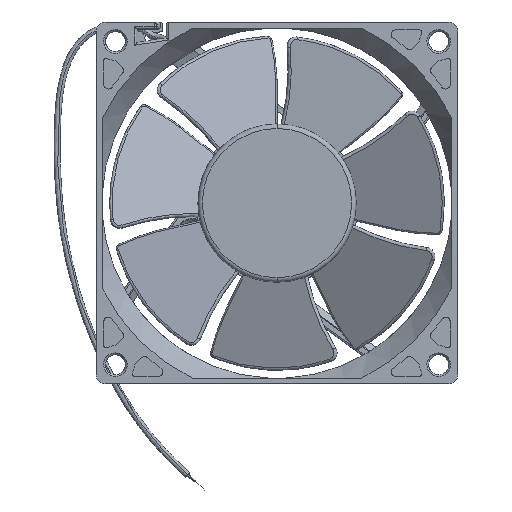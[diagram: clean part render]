
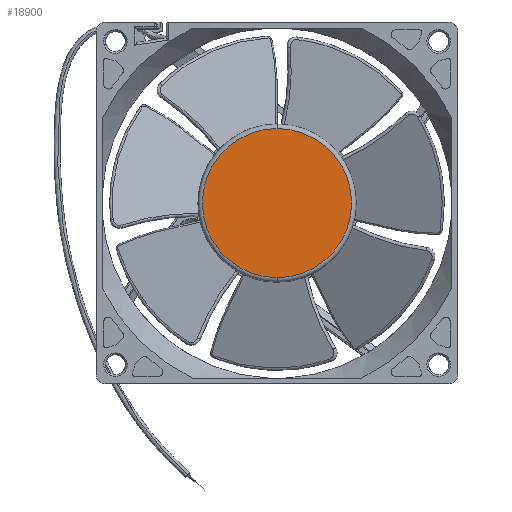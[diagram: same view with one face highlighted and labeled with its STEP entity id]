
A CAD part, front view. The second image highlights one B-rep face of the part: STEP entity #18900.
In plain terms, the highlighted planar face has unit normal (0, 1, 0).
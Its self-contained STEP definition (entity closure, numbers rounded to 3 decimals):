
#1941 = FACE_OUTER_BOUND ( 'NONE', #17195, .T. ) ;
#5399 = CARTESIAN_POINT ( 'NONE',  ( -16.5, 0.2, 16.5 ) ) ;
#5783 = EDGE_CURVE ( 'NONE', #9140, #20288, #32153, .T. ) ;
#6127 = CARTESIAN_POINT ( 'NONE',  ( 0., 0.2, 16.5 ) ) ;
#9140 = VERTEX_POINT ( 'NONE', #6127 ) ;
#11890 = CARTESIAN_POINT ( 'NONE',  ( 0., 0.2, -16.5 ) ) ;
#12373 = DIRECTION ( 'NONE',  ( 0., -1., 0. ) ) ;
#13063 = DIRECTION ( 'NONE',  ( 0., -1., 0. ) ) ;
#13183 = AXIS2_PLACEMENT_3D ( 'NONE', #30862, #13063, #33861 ) ;
#14342 = CIRCLE ( 'NONE', #38141, 16.5 ) ;
#14353 = DIRECTION ( 'NONE',  ( 0., 1., 0. ) ) ;
#17195 = EDGE_LOOP ( 'NONE', ( #37968, #28523 ) ) ;
#18900 = ADVANCED_FACE ( 'NONE', ( #1941 ), #29171, .T. ) ;
#20288 = VERTEX_POINT ( 'NONE', #11890 ) ;
#20793 = AXIS2_PLACEMENT_3D ( 'NONE', #5399, #14353, #35171 ) ;
#22609 = EDGE_CURVE ( 'NONE', #20288, #9140, #14342, .T. ) ;
#28523 = ORIENTED_EDGE ( 'NONE', *, *, #22609, .F. ) ;
#29171 = PLANE ( 'NONE',  #20793 ) ;
#30155 = CARTESIAN_POINT ( 'NONE',  ( 0., 0.2, 0. ) ) ;
#30862 = CARTESIAN_POINT ( 'NONE',  ( 0., 0.2, 0. ) ) ;
#32153 = CIRCLE ( 'NONE', #13183, 16.5 ) ;
#33158 = DIRECTION ( 'NONE',  ( 0., 0., 1. ) ) ;
#33861 = DIRECTION ( 'NONE',  ( 0., 0., 1. ) ) ;
#35171 = DIRECTION ( 'NONE',  ( 0., 0., 1. ) ) ;
#37968 = ORIENTED_EDGE ( 'NONE', *, *, #5783, .F. ) ;
#38141 = AXIS2_PLACEMENT_3D ( 'NONE', #30155, #12373, #33158 ) ;
